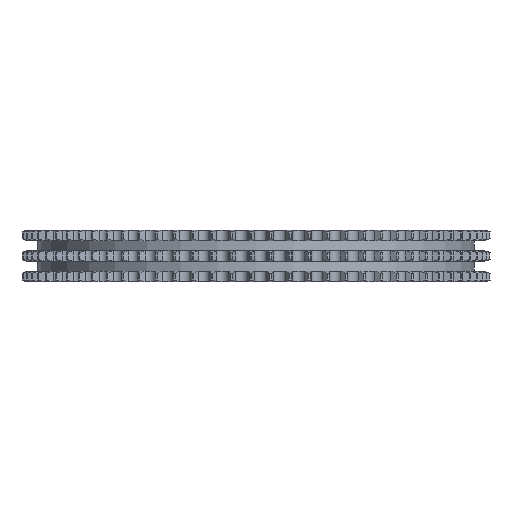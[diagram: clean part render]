
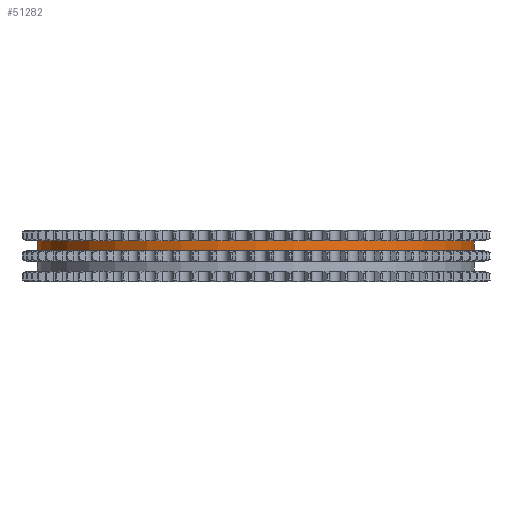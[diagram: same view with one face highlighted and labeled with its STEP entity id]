
A CAD part, left-side view. The second image highlights one B-rep face of the part: STEP entity #51282.
In plain terms, the highlighted cylindrical face has radius 107.73 mm (diameter 215.459 mm), a partial arc.
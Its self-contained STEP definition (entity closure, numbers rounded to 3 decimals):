
#8950=DIRECTION('',(0.,0.,-1.));
#8951=VECTOR('',#8950,4.85);
#8952=CARTESIAN_POINT('',(0.,107.73,7.5));
#8953=LINE('',#8952,#8951);
#8957=CARTESIAN_POINT('',(0.,0.,7.5));
#8958=DIRECTION('',(0.,0.,1.));
#8959=DIRECTION('',(0.,1.,0.));
#8960=AXIS2_PLACEMENT_3D('',#8957,#8958,#8959);
#8965=DIRECTION('',(0.,0.,-1.));
#8966=VECTOR('',#8965,4.85);
#8967=CARTESIAN_POINT('',(0.,-107.73,7.5));
#8968=LINE('',#8967,#8966);
#8972=CARTESIAN_POINT('',(0.,0.,2.65));
#8973=DIRECTION('',(0.,0.,1.));
#8974=DIRECTION('',(0.,1.,0.));
#8975=AXIS2_PLACEMENT_3D('',#8972,#8973,#8974);
#41138=CARTESIAN_POINT('',(0.,107.73,7.5));
#41139=CARTESIAN_POINT('',(0.,107.73,2.65));
#41140=VERTEX_POINT('',#41138);
#41141=VERTEX_POINT('',#41139);
#41142=CARTESIAN_POINT('',(0.,-107.73,7.5));
#41143=CARTESIAN_POINT('',(0.,-107.73,2.65));
#41144=VERTEX_POINT('',#41142);
#41145=VERTEX_POINT('',#41143);
#51270=CARTESIAN_POINT('',(0.,0.,8.25));
#51271=DIRECTION('',(0.,0.,-1.));
#51272=DIRECTION('',(0.,-1.,0.));
#51273=AXIS2_PLACEMENT_3D('',#51270,#51271,#51272);
#51274=CYLINDRICAL_SURFACE('',#51273,107.73);
#51275=ORIENTED_EDGE('',*,*,#51260,.F.);
#51276=ORIENTED_EDGE('',*,*,#51250,.T.);
#51277=ORIENTED_EDGE('',*,*,#51264,.T.);
#51279=ORIENTED_EDGE('',*,*,#51278,.F.);
#51280=EDGE_LOOP('',(#51275,#51276,#51277,#51279));
#51281=FACE_OUTER_BOUND('',#51280,.F.);
#51282=ADVANCED_FACE('',(#51281),#51274,.T.);
#8961=CIRCLE('',#8960,107.73);
#8976=CIRCLE('',#8975,107.73);
#51250=EDGE_CURVE('',#41140,#41144,#8961,.T.);
#51260=EDGE_CURVE('',#41140,#41141,#8953,.T.);
#51264=EDGE_CURVE('',#41144,#41145,#8968,.T.);
#51278=EDGE_CURVE('',#41141,#41145,#8976,.T.);
